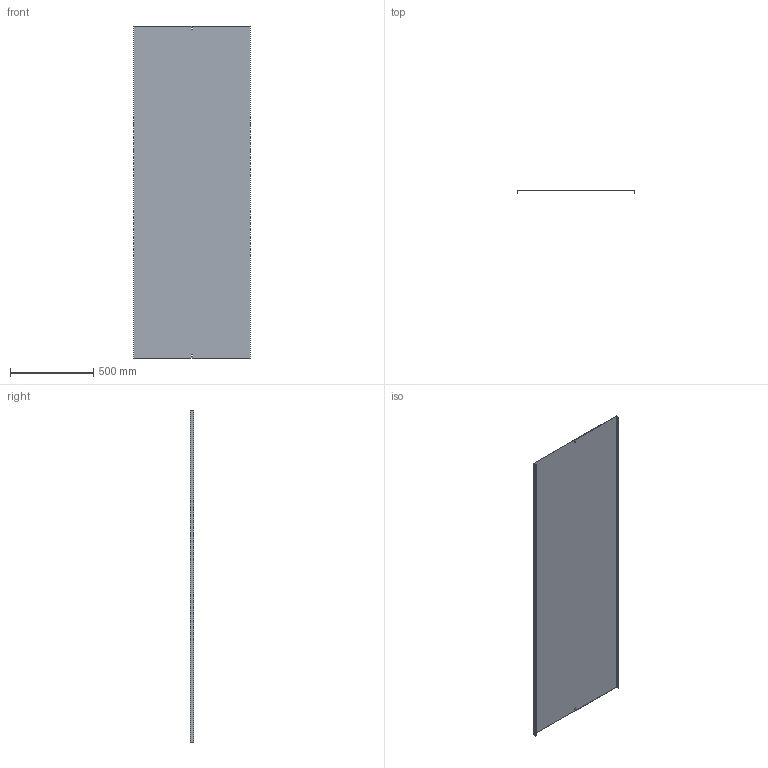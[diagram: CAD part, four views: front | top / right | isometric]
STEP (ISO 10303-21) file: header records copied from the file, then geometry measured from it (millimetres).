
FILE_DESCRIPTION (( 'STEP AP214' ), '1' );
FILE_NAME ('05N2R700.step', '2025-02-21T14:44:25', ( '' ), ( '' ), 'SwSTEP 2.0', 'SolidWorks 2023', '' );
FILE_SCHEMA (( 'AUTOMOTIVE_DESIGN' ));
Length unit declared in the file: millimetre
Products named in the file (1): 05N2R700
Bounding box: 703 x 20 x 2000 mm (x, y, z)
Volume: 2219824.5 mm3; surface area: 2968079 mm2
Topology: 1 solids, 1 shells, 18 faces, 48 edges, 32 vertices
Faces by surface type: plane 18
Entity records: 583 total; most frequent: CARTESIAN_POINT 99, ORIENTED_EDGE 96, DIRECTION 86, LINE 48, EDGE_CURVE 48, VECTOR 48, VERTEX_POINT 32, EDGE_LOOP 22
